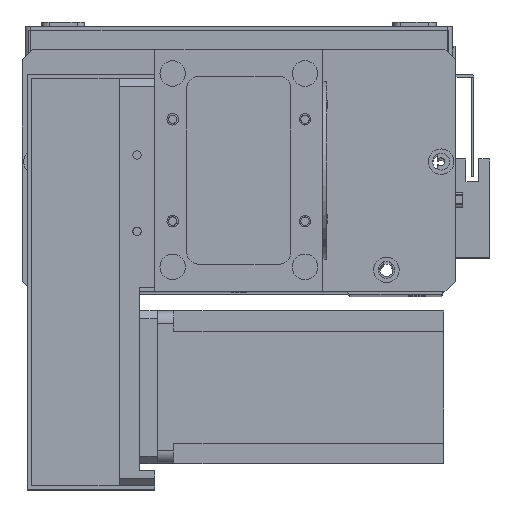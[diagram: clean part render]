
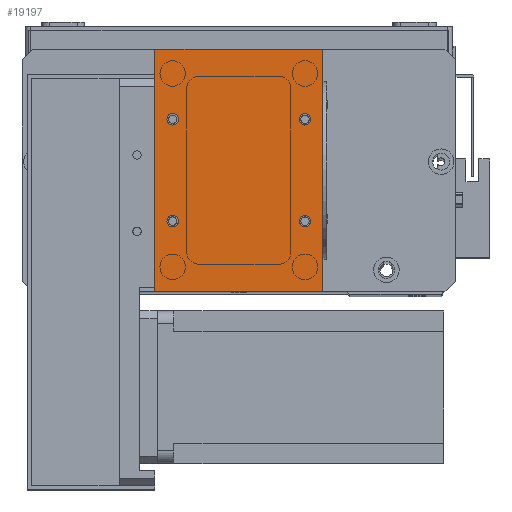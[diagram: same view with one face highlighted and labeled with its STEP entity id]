
A CAD part, top view. The second image highlights one B-rep face of the part: STEP entity #19197.
In plain terms, the highlighted planar face has unit normal (0, 0, 1).
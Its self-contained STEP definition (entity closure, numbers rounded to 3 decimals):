
#565 = VERTEX_POINT ( 'NONE', #11223 ) ;
#1135 = CIRCLE ( 'NONE', #25631, 2.25 ) ;
#1309 = EDGE_CURVE ( 'NONE', #26516, #22090, #1135, .T. ) ;
#1758 = AXIS2_PLACEMENT_3D ( 'NONE', #19481, #5194, #21877 ) ;
#2113 = DIRECTION ( 'NONE',  ( -1., 0., 0. ) ) ;
#2784 = EDGE_CURVE ( 'NONE', #4136, #4191, #25218, .T. ) ;
#2834 = DIRECTION ( 'NONE',  ( 0., 0., 1. ) ) ;
#3400 = EDGE_CURVE ( 'NONE', #16090, #13526, #9204, .T. ) ;
#3731 = CARTESIAN_POINT ( 'NONE',  ( 66., 0., 2. ) ) ;
#3936 = VERTEX_POINT ( 'NONE', #5737 ) ;
#4136 = VERTEX_POINT ( 'NONE', #13555 ) ;
#4191 = VERTEX_POINT ( 'NONE', #16583 ) ;
#4294 = CIRCLE ( 'NONE', #6705, 2.25 ) ;
#4311 = AXIS2_PLACEMENT_3D ( 'NONE', #17143, #2834, #19540 ) ;
#4322 = AXIS2_PLACEMENT_3D ( 'NONE', #5791, #22472, #8158 ) ;
#4511 = CARTESIAN_POINT ( 'NONE',  ( 66., 95., 2. ) ) ;
#4617 = VECTOR ( 'NONE', #2113, 1000. ) ;
#5194 = DIRECTION ( 'NONE',  ( 0., 0., 1. ) ) ;
#5333 = ORIENTED_EDGE ( 'NONE', *, *, #25812, .T. ) ;
#5448 = VECTOR ( 'NONE', #7160, 1000. ) ;
#5514 = EDGE_CURVE ( 'NONE', #13526, #16090, #13174, .T. ) ;
#5737 = CARTESIAN_POINT ( 'NONE',  ( 66., 0., 2. ) ) ;
#5791 = CARTESIAN_POINT ( 'NONE',  ( 7., 27.5, 2. ) ) ;
#6121 = CARTESIAN_POINT ( 'NONE',  ( 4.75, 67.5, 2. ) ) ;
#6608 = CARTESIAN_POINT ( 'NONE',  ( 59., 67.5, 2. ) ) ;
#6705 = AXIS2_PLACEMENT_3D ( 'NONE', #24069, #9793, #26457 ) ;
#7160 = DIRECTION ( 'NONE',  ( 0., -1., 0. ) ) ;
#7770 = AXIS2_PLACEMENT_3D ( 'NONE', #12045, #28714, #14448 ) ;
#8158 = DIRECTION ( 'NONE',  ( 1., 0., 0. ) ) ;
#8459 = CARTESIAN_POINT ( 'NONE',  ( 4.75, 27.5, 2. ) ) ;
#8876 = CIRCLE ( 'NONE', #30371, 2.25 ) ;
#8917 = ORIENTED_EDGE ( 'NONE', *, *, #17283, .F. ) ;
#9025 = DIRECTION ( 'NONE',  ( 1., 0., 0. ) ) ;
#9204 = CIRCLE ( 'NONE', #4311, 2.25 ) ;
#9347 = CARTESIAN_POINT ( 'NONE',  ( 7., 67.5, 2. ) ) ;
#9752 = EDGE_LOOP ( 'NONE', ( #27574, #21740 ) ) ;
#9793 = DIRECTION ( 'NONE',  ( 0., 0., 1. ) ) ;
#9956 = DIRECTION ( 'NONE',  ( 1., 0., 0. ) ) ;
#10273 = FACE_OUTER_BOUND ( 'NONE', #28626, .T. ) ;
#11223 = CARTESIAN_POINT ( 'NONE',  ( 61.25, 67.5, 2. ) ) ;
#11739 = DIRECTION ( 'NONE',  ( 1., 0., 0. ) ) ;
#11770 = FACE_BOUND ( 'NONE', #20982, .T. ) ;
#12045 = CARTESIAN_POINT ( 'NONE',  ( 7., 27.5, 2. ) ) ;
#12446 = DIRECTION ( 'NONE',  ( 0., 0., -1. ) ) ;
#12461 = LINE ( 'NONE', #29016, #30785 ) ;
#13174 = CIRCLE ( 'NONE', #1758, 2.25 ) ;
#13526 = VERTEX_POINT ( 'NONE', #14959 ) ;
#13555 = CARTESIAN_POINT ( 'NONE',  ( 0., 95., 2. ) ) ;
#14186 = EDGE_CURVE ( 'NONE', #29045, #14300, #21963, .T. ) ;
#14300 = VERTEX_POINT ( 'NONE', #27555 ) ;
#14448 = DIRECTION ( 'NONE',  ( 1., 0., 0. ) ) ;
#14611 = CIRCLE ( 'NONE', #7770, 2.25 ) ;
#14762 = PLANE ( 'NONE',  #16890 ) ;
#14959 = CARTESIAN_POINT ( 'NONE',  ( 61.25, 27.5, 2. ) ) ;
#15354 = ORIENTED_EDGE ( 'NONE', *, *, #14186, .F. ) ;
#16090 = VERTEX_POINT ( 'NONE', #25059 ) ;
#16583 = CARTESIAN_POINT ( 'NONE',  ( 0., 0., 2. ) ) ;
#16627 = FACE_BOUND ( 'NONE', #22761, .T. ) ;
#16821 = ORIENTED_EDGE ( 'NONE', *, *, #5514, .F. ) ;
#16890 = AXIS2_PLACEMENT_3D ( 'NONE', #29021, #12446, #29126 ) ;
#17143 = CARTESIAN_POINT ( 'NONE',  ( 59., 27.5, 2. ) ) ;
#17283 = EDGE_CURVE ( 'NONE', #22090, #26516, #8876, .T. ) ;
#18032 = DIRECTION ( 'NONE',  ( 0., 1., 0. ) ) ;
#18044 = LINE ( 'NONE', #30714, #4617 ) ;
#19013 = EDGE_CURVE ( 'NONE', #30391, #565, #27430, .T. ) ;
#19197 = ADVANCED_FACE ( 'NONE', ( #11770, #22961, #30061, #16627, #10273 ), #14762, .F. ) ;
#19481 = CARTESIAN_POINT ( 'NONE',  ( 59., 27.5, 2. ) ) ;
#19490 = ORIENTED_EDGE ( 'NONE', *, *, #22779, .T. ) ;
#19540 = DIRECTION ( 'NONE',  ( 1., 0., 0. ) ) ;
#19709 = LINE ( 'NONE', #3731, #26052 ) ;
#20584 = EDGE_LOOP ( 'NONE', ( #16821, #22807 ) ) ;
#20586 = ORIENTED_EDGE ( 'NONE', *, *, #24073, .F. ) ;
#20982 = EDGE_LOOP ( 'NONE', ( #21228, #8917 ) ) ;
#21228 = ORIENTED_EDGE ( 'NONE', *, *, #1309, .F. ) ;
#21740 = ORIENTED_EDGE ( 'NONE', *, *, #19013, .F. ) ;
#21877 = DIRECTION ( 'NONE',  ( 1., 0., 0. ) ) ;
#21963 = CIRCLE ( 'NONE', #4322, 2.25 ) ;
#22090 = VERTEX_POINT ( 'NONE', #6121 ) ;
#22472 = DIRECTION ( 'NONE',  ( 0., 0., 1. ) ) ;
#22761 = EDGE_LOOP ( 'NONE', ( #20586, #15354 ) ) ;
#22779 = EDGE_CURVE ( 'NONE', #27579, #4136, #18044, .T. ) ;
#22807 = ORIENTED_EDGE ( 'NONE', *, *, #3400, .F. ) ;
#22961 = FACE_BOUND ( 'NONE', #9752, .T. ) ;
#23307 = DIRECTION ( 'NONE',  ( 0., 0., 1. ) ) ;
#24069 = CARTESIAN_POINT ( 'NONE',  ( 59., 67.5, 2. ) ) ;
#24073 = EDGE_CURVE ( 'NONE', #14300, #29045, #14611, .T. ) ;
#24830 = ORIENTED_EDGE ( 'NONE', *, *, #28866, .T. ) ;
#24997 = DIRECTION ( 'NONE',  ( 1., 0., 0. ) ) ;
#25059 = CARTESIAN_POINT ( 'NONE',  ( 56.75, 27.5, 2. ) ) ;
#25070 = ORIENTED_EDGE ( 'NONE', *, *, #2784, .T. ) ;
#25218 = LINE ( 'NONE', #28521, #5448 ) ;
#25461 = AXIS2_PLACEMENT_3D ( 'NONE', #6608, #23307, #9025 ) ;
#25631 = AXIS2_PLACEMENT_3D ( 'NONE', #30925, #27230, #24997 ) ;
#25812 = EDGE_CURVE ( 'NONE', #3936, #27579, #19709, .T. ) ;
#26017 = DIRECTION ( 'NONE',  ( 0., 0., 1. ) ) ;
#26052 = VECTOR ( 'NONE', #18032, 1000. ) ;
#26457 = DIRECTION ( 'NONE',  ( 1., 0., 0. ) ) ;
#26516 = VERTEX_POINT ( 'NONE', #27958 ) ;
#27230 = DIRECTION ( 'NONE',  ( 0., 0., 1. ) ) ;
#27430 = CIRCLE ( 'NONE', #25461, 2.25 ) ;
#27555 = CARTESIAN_POINT ( 'NONE',  ( 9.25, 27.5, 2. ) ) ;
#27574 = ORIENTED_EDGE ( 'NONE', *, *, #29980, .F. ) ;
#27579 = VERTEX_POINT ( 'NONE', #4511 ) ;
#27958 = CARTESIAN_POINT ( 'NONE',  ( 9.25, 67.5, 2. ) ) ;
#28521 = CARTESIAN_POINT ( 'NONE',  ( 0., 0., 2. ) ) ;
#28613 = CARTESIAN_POINT ( 'NONE',  ( 56.75, 67.5, 2. ) ) ;
#28626 = EDGE_LOOP ( 'NONE', ( #25070, #24830, #5333, #19490 ) ) ;
#28714 = DIRECTION ( 'NONE',  ( 0., 0., 1. ) ) ;
#28866 = EDGE_CURVE ( 'NONE', #4191, #3936, #12461, .T. ) ;
#29016 = CARTESIAN_POINT ( 'NONE',  ( 0., 0., 2. ) ) ;
#29021 = CARTESIAN_POINT ( 'NONE',  ( 0., 0., 2. ) ) ;
#29045 = VERTEX_POINT ( 'NONE', #8459 ) ;
#29126 = DIRECTION ( 'NONE',  ( -1., 0., 0. ) ) ;
#29980 = EDGE_CURVE ( 'NONE', #565, #30391, #4294, .T. ) ;
#30061 = FACE_BOUND ( 'NONE', #20584, .T. ) ;
#30371 = AXIS2_PLACEMENT_3D ( 'NONE', #9347, #26017, #11739 ) ;
#30391 = VERTEX_POINT ( 'NONE', #28613 ) ;
#30714 = CARTESIAN_POINT ( 'NONE',  ( 0., 95., 2. ) ) ;
#30785 = VECTOR ( 'NONE', #9956, 1000. ) ;
#30925 = CARTESIAN_POINT ( 'NONE',  ( 7., 67.5, 2. ) ) ;
